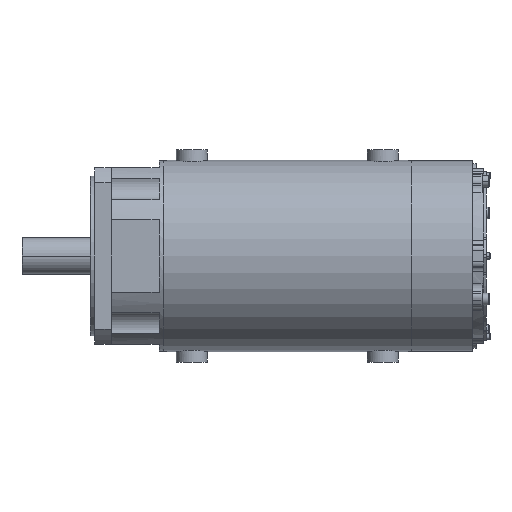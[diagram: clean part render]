
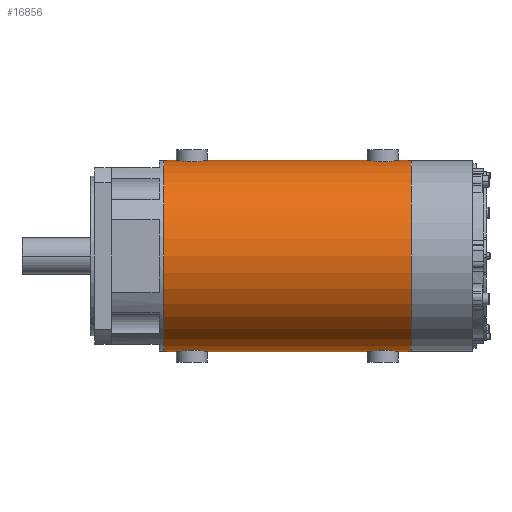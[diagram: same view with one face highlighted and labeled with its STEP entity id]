
A CAD part, front view. The second image highlights one B-rep face of the part: STEP entity #16856.
In plain terms, the highlighted cylindrical face has radius 108 mm (diameter 216 mm), a partial arc.
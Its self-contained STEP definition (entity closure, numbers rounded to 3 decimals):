
#12187=CARTESIAN_POINT('',(120.,0.,108.));
#12188=CARTESIAN_POINT('',(120.,-0.806,108.));
#12189=CARTESIAN_POINT('',(119.816,-2.377,
107.983));
#12190=CARTESIAN_POINT('',(118.927,-4.729,
107.904));
#12191=CARTESIAN_POINT('',(117.534,-6.725,
107.795));
#12192=CARTESIAN_POINT('',(115.674,-8.354,
107.679));
#12193=CARTESIAN_POINT('',(113.518,-9.468,
107.585));
#12194=CARTESIAN_POINT('',(111.092,-10.04,
107.532));
#12195=CARTESIAN_POINT('',(108.689,-10.012,
107.535));
#12196=CARTESIAN_POINT('',(106.31,-9.399,
107.591));
#12197=CARTESIAN_POINT('',(104.212,-8.271,
107.686));
#12198=CARTESIAN_POINT('',(102.403,-6.649,
107.8));
#12199=CARTESIAN_POINT('',(101.041,-4.664,
107.907));
#12200=CARTESIAN_POINT('',(100.176,-2.33,
107.983));
#12201=CARTESIAN_POINT('',(100.,-0.788,108.));
#12202=CARTESIAN_POINT('',(100.,0.,108.));
#12204=CARTESIAN_POINT('',(336.,0.,108.));
#12205=CARTESIAN_POINT('',(336.,-0.806,108.));
#12206=CARTESIAN_POINT('',(335.816,-2.377,
107.983));
#12207=CARTESIAN_POINT('',(334.927,-4.729,
107.904));
#12208=CARTESIAN_POINT('',(333.534,-6.725,
107.795));
#12209=CARTESIAN_POINT('',(331.674,-8.354,
107.679));
#12210=CARTESIAN_POINT('',(329.518,-9.468,
107.585));
#12211=CARTESIAN_POINT('',(327.092,-10.04,
107.532));
#12212=CARTESIAN_POINT('',(324.689,-10.012,
107.535));
#12213=CARTESIAN_POINT('',(322.31,-9.399,
107.591));
#12214=CARTESIAN_POINT('',(320.212,-8.271,
107.686));
#12215=CARTESIAN_POINT('',(318.403,-6.649,
107.8));
#12216=CARTESIAN_POINT('',(317.041,-4.664,
107.907));
#12217=CARTESIAN_POINT('',(316.176,-2.33,
107.983));
#12218=CARTESIAN_POINT('',(316.,-0.788,108.));
#12219=CARTESIAN_POINT('',(316.,0.,108.));
#12221=CARTESIAN_POINT('',(358.,0.,0.));
#12222=DIRECTION('',(1.,0.,0.));
#12223=DIRECTION('',(0.,0.,1.));
#12224=AXIS2_PLACEMENT_3D('',#12221,#12222,#12223);
#12226=DIRECTION('',(-1.,0.,0.));
#12227=VECTOR('',#12226,22.);
#12228=CARTESIAN_POINT('',(358.,0.,-108.));
#12229=LINE('',#12228,#12227);
#12230=CARTESIAN_POINT('',(316.,0.,-108.));
#12231=CARTESIAN_POINT('',(316.,-0.789,-108.));
#12232=CARTESIAN_POINT('',(316.176,-2.332,
-107.983));
#12233=CARTESIAN_POINT('',(317.041,-4.663,
-107.907));
#12234=CARTESIAN_POINT('',(318.402,-6.648,
-107.8));
#12235=CARTESIAN_POINT('',(320.212,-8.271,
-107.686));
#12236=CARTESIAN_POINT('',(322.31,-9.398,
-107.591));
#12237=CARTESIAN_POINT('',(324.689,-10.012,
-107.535));
#12238=CARTESIAN_POINT('',(327.092,-10.04,
-107.532));
#12239=CARTESIAN_POINT('',(329.517,-9.468,
-107.585));
#12240=CARTESIAN_POINT('',(331.674,-8.354,
-107.679));
#12241=CARTESIAN_POINT('',(333.534,-6.725,
-107.795));
#12242=CARTESIAN_POINT('',(334.927,-4.729,
-107.904));
#12243=CARTESIAN_POINT('',(335.816,-2.377,
-107.983));
#12244=CARTESIAN_POINT('',(336.,-0.806,-108.));
#12245=CARTESIAN_POINT('',(336.,0.,-108.));
#12247=DIRECTION('',(-1.,0.,0.));
#12248=VECTOR('',#12247,196.);
#12249=CARTESIAN_POINT('',(316.,0.,-108.));
#12250=LINE('',#12249,#12248);
#12251=CARTESIAN_POINT('',(100.,0.,-108.));
#12252=CARTESIAN_POINT('',(100.,-0.789,-108.));
#12253=CARTESIAN_POINT('',(100.176,-2.332,
-107.983));
#12254=CARTESIAN_POINT('',(101.041,-4.663,
-107.907));
#12255=CARTESIAN_POINT('',(102.402,-6.648,
-107.8));
#12256=CARTESIAN_POINT('',(104.212,-8.271,
-107.686));
#12257=CARTESIAN_POINT('',(106.31,-9.398,
-107.591));
#12258=CARTESIAN_POINT('',(108.689,-10.012,
-107.535));
#12259=CARTESIAN_POINT('',(111.092,-10.04,
-107.532));
#12260=CARTESIAN_POINT('',(113.517,-9.468,
-107.585));
#12261=CARTESIAN_POINT('',(115.674,-8.354,
-107.679));
#12262=CARTESIAN_POINT('',(117.534,-6.725,
-107.795));
#12263=CARTESIAN_POINT('',(118.927,-4.729,
-107.904));
#12264=CARTESIAN_POINT('',(119.816,-2.377,
-107.983));
#12265=CARTESIAN_POINT('',(120.,-0.806,-108.));
#12266=CARTESIAN_POINT('',(120.,0.,-108.));
#12268=DIRECTION('',(-1.,0.,0.));
#12269=VECTOR('',#12268,22.);
#12270=CARTESIAN_POINT('',(100.,0.,-108.));
#12271=LINE('',#12270,#12269);
#12272=CARTESIAN_POINT('',(78.,0.,0.));
#12273=DIRECTION('',(-1.,0.,0.));
#12274=DIRECTION('',(0.,0.,-1.));
#12275=AXIS2_PLACEMENT_3D('',#12272,#12273,#12274);
#16396=DIRECTION('',(-1.,0.,0.));
#16397=VECTOR('',#16396,22.);
#16398=CARTESIAN_POINT('',(100.,0.,108.));
#16399=LINE('',#16398,#16397);
#16444=DIRECTION('',(-1.,0.,0.));
#16445=VECTOR('',#16444,22.);
#16446=CARTESIAN_POINT('',(358.,0.,108.));
#16447=LINE('',#16446,#16445);
#16465=DIRECTION('',(-1.,0.,0.));
#16466=VECTOR('',#16465,196.);
#16467=CARTESIAN_POINT('',(316.,0.,108.));
#16468=LINE('',#16467,#16466);
#16505=CARTESIAN_POINT('',(358.,0.,-108.));
#16506=CARTESIAN_POINT('',(358.,0.,108.));
#16507=VERTEX_POINT('',#16505);
#16508=VERTEX_POINT('',#16506);
#16509=CARTESIAN_POINT('',(78.,0.,-108.));
#16510=CARTESIAN_POINT('',(78.,0.,108.));
#16511=VERTEX_POINT('',#16509);
#16512=VERTEX_POINT('',#16510);
#16801=VERTEX_POINT('',#12251);
#16802=VERTEX_POINT('',#12266);
#16803=VERTEX_POINT('',#12230);
#16804=VERTEX_POINT('',#12245);
#16809=CARTESIAN_POINT('',(120.,0.,108.));
#16811=VERTEX_POINT('',#16809);
#16813=CARTESIAN_POINT('',(100.,0.,108.));
#16815=VERTEX_POINT('',#16813);
#16817=CARTESIAN_POINT('',(336.,0.,108.));
#16819=VERTEX_POINT('',#16817);
#16821=CARTESIAN_POINT('',(316.,0.,108.));
#16823=VERTEX_POINT('',#16821);
#16825=CARTESIAN_POINT('',(358.,0.,0.));
#16826=DIRECTION('',(-1.,0.,0.));
#16827=DIRECTION('',(0.,0.,-1.));
#16828=AXIS2_PLACEMENT_3D('',#16825,#16826,#16827);
#16829=CYLINDRICAL_SURFACE('',#16828,108.);
#16831=ORIENTED_EDGE('',*,*,#16830,.F.);
#16833=ORIENTED_EDGE('',*,*,#16832,.F.);
#16835=ORIENTED_EDGE('',*,*,#16834,.F.);
#16837=ORIENTED_EDGE('',*,*,#16836,.F.);
#16839=ORIENTED_EDGE('',*,*,#16838,.T.);
#16841=ORIENTED_EDGE('',*,*,#16840,.T.);
#16843=ORIENTED_EDGE('',*,*,#16842,.F.);
#16845=ORIENTED_EDGE('',*,*,#16844,.T.);
#16847=ORIENTED_EDGE('',*,*,#16846,.F.);
#16849=ORIENTED_EDGE('',*,*,#16848,.T.);
#16851=ORIENTED_EDGE('',*,*,#16850,.T.);
#16853=ORIENTED_EDGE('',*,*,#16852,.F.);
#16854=EDGE_LOOP('',(#16831,#16833,#16835,#16837,#16839,#16841,#16843,#16845,
#16847,#16849,#16851,#16853));
#16855=FACE_OUTER_BOUND('',#16854,.F.);
#16856=ADVANCED_FACE('',(#16855),#16829,.T.);
#12203=B_SPLINE_CURVE_WITH_KNOTS('',3,(#12187,#12188,#12189,#12190,#12191,
#12192,#12193,#12194,#12195,#12196,#12197,#12198,#12199,#12200,#12201,#12202),
.UNSPECIFIED.,.F.,.F.,(4,1,1,1,1,1,1,1,1,1,1,1,1,4),(0.,0.077,
0.154,0.231,0.308,0.385,
0.462,0.538,0.615,0.692,
0.769,0.846,0.923,1.),.UNSPECIFIED.);
#12220=B_SPLINE_CURVE_WITH_KNOTS('',3,(#12204,#12205,#12206,#12207,#12208,
#12209,#12210,#12211,#12212,#12213,#12214,#12215,#12216,#12217,#12218,#12219),
.UNSPECIFIED.,.F.,.F.,(4,1,1,1,1,1,1,1,1,1,1,1,1,4),(0.,0.077,
0.154,0.231,0.308,0.385,
0.462,0.538,0.615,0.692,
0.769,0.846,0.923,1.),.UNSPECIFIED.);
#12225=CIRCLE('',#12224,108.);
#12246=B_SPLINE_CURVE_WITH_KNOTS('',3,(#12230,#12231,#12232,#12233,#12234,
#12235,#12236,#12237,#12238,#12239,#12240,#12241,#12242,#12243,#12244,#12245),
.UNSPECIFIED.,.F.,.F.,(4,1,1,1,1,1,1,1,1,1,1,1,1,4),(0.,0.077,
0.154,0.231,0.308,0.385,
0.462,0.538,0.615,0.692,
0.769,0.846,0.923,1.),.UNSPECIFIED.);
#12267=B_SPLINE_CURVE_WITH_KNOTS('',3,(#12251,#12252,#12253,#12254,#12255,
#12256,#12257,#12258,#12259,#12260,#12261,#12262,#12263,#12264,#12265,#12266),
.UNSPECIFIED.,.F.,.F.,(4,1,1,1,1,1,1,1,1,1,1,1,1,4),(0.,0.077,
0.154,0.231,0.308,0.385,
0.462,0.538,0.615,0.692,
0.769,0.846,0.923,1.),.UNSPECIFIED.);
#12276=CIRCLE('',#12275,108.);
#16830=EDGE_CURVE('',#16811,#16815,#12203,.T.);
#16832=EDGE_CURVE('',#16823,#16811,#16468,.T.);
#16834=EDGE_CURVE('',#16819,#16823,#12220,.T.);
#16836=EDGE_CURVE('',#16508,#16819,#16447,.T.);
#16838=EDGE_CURVE('',#16508,#16507,#12225,.T.);
#16840=EDGE_CURVE('',#16507,#16804,#12229,.T.);
#16842=EDGE_CURVE('',#16803,#16804,#12246,.T.);
#16844=EDGE_CURVE('',#16803,#16802,#12250,.T.);
#16846=EDGE_CURVE('',#16801,#16802,#12267,.T.);
#16848=EDGE_CURVE('',#16801,#16511,#12271,.T.);
#16850=EDGE_CURVE('',#16511,#16512,#12276,.T.);
#16852=EDGE_CURVE('',#16815,#16512,#16399,.T.);
